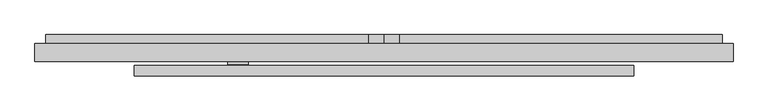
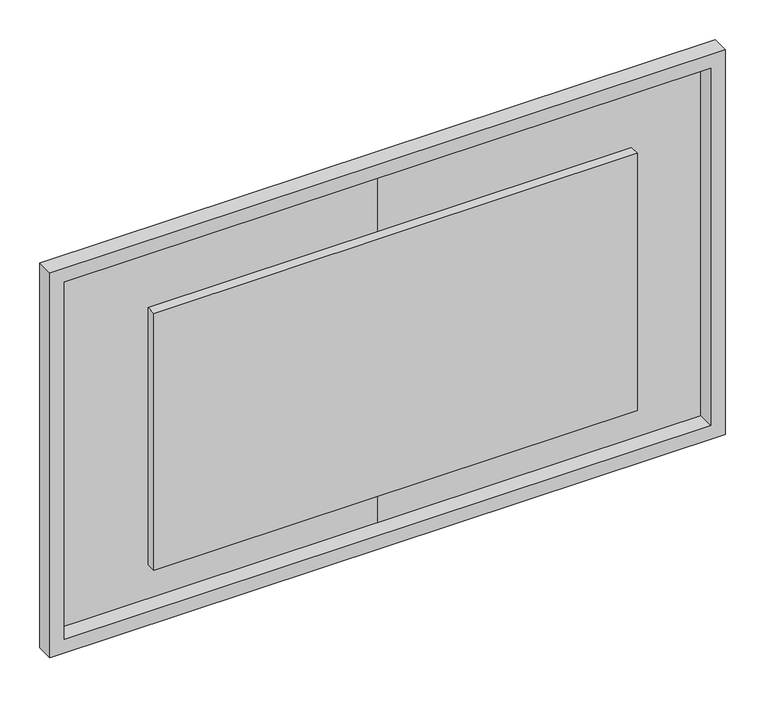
"""IFC4 building model written with IfcOpenShell, lengths in millimetres: plate geometry, Panel-Module-Teknion-Altos-TV_Shroud_With_Ceiling_and_Base : Side A TV Shroud, Side B Landscape Wall."""

from ifc_helpers import new_model, si_unit, point, frame, frame_2d, origin, place, context, project, spatial, polyline, circle_curve, trimmed, segment, composite_curve, outline, extrude, source, transform, mapped, element, save


def plate_c2148631(model_context):
    return source(origin(), model_context, "Body", "SweptSolid", [
        extrude(outline(polyline([(587.375, 5.3747645), (510.93116, 5.3747645), (510.93116, 24.9327645), (-510.93116, 24.9327645), (-510.93116, 5.3747645), (-587.375, 5.3747645), (-587.375, 8.0316045), (-513.588, 8.0316045), (-513.588, 27.5896045), (513.588, 27.5896045), (513.588, 8.0316045), (587.375, 8.0316045), (587.375, 5.3747645)])), frame((0.0, 0.0, 1194.181), z_axis=(0.0, 0.0, 1.0), x_axis=(1.0, 0.0, 0.0)), (0.0, 0.0, 1.0), 666.75),
        extrude(outline(polyline([(5.3747645, 1897.13616), (8.0316045, 1897.13616), (8.0316045, 1864.34984), (27.5896045, 1864.34984), (27.5896045, 1190.76216), (8.0316045, 1190.76216), (8.0316045, 1157.97584), (5.3747645, 1157.97584), (5.3747645, 1193.419), (24.9327645, 1193.419), (24.9327645, 1861.693), (5.3747645, 1861.693), (5.3747645, 1897.13616)])), frame((-510.16916, 0.0, 0.0), z_axis=(1.0, 0.0, 0.0), x_axis=(0.0, 1.0, 0.0)), (0.0, 0.0, 1.0), 1020.33832),
        extrude(outline(polyline([(2098.3702, 0.0), (2098.3702, -45.6140344), (2099.564, -45.6140344), (2099.564, -974.9746344), (955.5633805, -974.9746344), (955.5633805, -45.6140344), (956.7418, -45.6140344), (956.7418, 0.0), (1194.181, 0.0), (1194.181, -550.4390344), (1200.531, -550.4390344), (1200.531, -594.8890344), (1854.581, -594.8890344), (1854.581, -550.4390344), (1860.931, -550.4390344), (1860.931, 0.0), (2098.3702, 0.0)])), frame((0.0, 1.9076645, 0.0), z_axis=(0.0, 1.0, 0.0), x_axis=(0.0, 0.0, 1.0)), (0.0, 0.0, 1.0), 25.68194),
        extrude(outline(polyline([(2098.3702, 0.0), (1860.931, 0.0), (1860.931, 550.4390344), (1854.581, 550.4390344), (1854.581, 594.8890344), (1200.531, 594.8890344), (1200.531, 550.4390344), (1194.181, 550.4390344), (1194.181, 0.0), (956.7418, 0.0), (956.7418, 45.6140344), (955.548, 45.6140344), (955.548, 974.9746344), (2099.564, 974.9746344), (2099.564, 45.6140344), (2098.3702, 45.6140344), (2098.3702, 0.0)])), frame((0.0, 1.9076645, 0.0), z_axis=(0.0, 1.0, 0.0), x_axis=(0.0, 0.0, 1.0)), (0.0, 0.0, 1.0), 25.68194),
        extrude(outline(polyline([(-28.9703956, 1118.87), (-28.9703956, 1228.409235), (27.5896045, 1228.409235), (27.5896045, 1195.1335), (1.9076645, 1195.1335), (1.9076645, 1118.87), (-28.9703956, 1118.87)])), frame((387.10616, 0.0, 0.0), z_axis=(1.0, 0.0, 0.0), x_axis=(0.0, 1.0, 0.0)), (0.0, 0.0, 1.0), 114.3),
        extrude(outline(polyline([(-510.93116, 5.3747645), (-409.33116, 5.3747645), (-409.33116, -32.7178517), (-510.93116, -32.7178517), (-510.93116, 5.3747645)])), frame((0.0, 0.0, 1275.969), z_axis=(0.0, 0.0, 1.0), x_axis=(1.0, 0.0, 0.0)), (0.0, 0.0, 1.0), 292.1),
        extrude(outline(polyline([(-390.5800001, -57.6172355), (-450.58, -57.6172355), (-450.58, -44.9172355), (-390.5800001, -44.9172355), (-390.5800001, -57.6172355)])), frame((0.0, 0.0, 1277.3984), z_axis=(0.0, 0.0, 1.0), x_axis=(1.0, 0.0, 0.0)), (0.0, 0.0, 1.0), 59.6534781),
        extrude(outline(polyline([(917.575, 1005.8356344), (2130.425, 1005.8356344), (2130.425, -1005.8356344), (917.575, -1005.8356344), (917.575, 1005.8356344)]), holes=[polyline([(960.882, -962.5286344), (2087.118, -962.5286344), (2087.118, 962.5286344), (960.882, 962.5286344), (960.882, -962.5286344)])]), frame((0.0, -50.0073955, 0.0), z_axis=(0.0, 1.0, 0.0), x_axis=(0.0, 0.0, 1.0)), (0.0, 0.0, 1.0), 51.91506),
        extrude(outline(composite_curve([segment(polyline([(381.0, 24.9327645), (382.8786696, 23.0540949), (369.2487336, 9.424159)]), True, "CONTINUOUS"), segment(trimmed(circle_curve(frame_2d((361.95, 16.7228926)), 10.3219681), [point((369.2487336, 9.424159))], [point((361.95, 6.4009245))], False, "CARTESIAN"), True, "CONTINUOUS"), segment(polyline([(361.95, 6.4009245), (-361.95, 6.4009245)]), True, "CONTINUOUS"), segment(trimmed(circle_curve(frame_2d((-361.95, 16.7228926)), 10.3219681), [point((-361.95, 6.4009245))], [point((-369.2487336, 9.424159))], False, "CARTESIAN"), True, "CONTINUOUS"), segment(polyline([(-369.2487336, 9.424159), (-382.8786696, 23.0540949), (-381.0, 24.9327645), (-367.370064, 11.3028285)]), True, "CONTINUOUS"), segment(trimmed(circle_curve(frame_2d((-361.95, 16.7228926)), 7.6651281), [point((-367.370064, 11.3028285))], [point((-361.95, 9.0577645))], True, "CARTESIAN"), True, "CONTINUOUS"), segment(polyline([(-361.95, 9.0577645), (361.95, 9.0577645)]), True, "CONTINUOUS"), segment(trimmed(circle_curve(frame_2d((361.95, 16.7228926)), 7.6651281), [point((361.95, 9.0577645))], [point((367.370064, 11.3028285))], True, "CARTESIAN"), True, "CONTINUOUS"), segment(polyline([(367.370064, 11.3028285), (381.0, 24.9327645)]), True, "CONTINUOUS")], self_intersect=False)), frame((0.0, 0.0, 1406.906), z_axis=(0.0, 0.0, 1.0), x_axis=(1.0, 0.0, 0.0)), (0.0, 0.0, 1.0), 241.3),
        extrude(outline(polyline([(-720.09, -61.8172355), (720.09, -61.8172355), (720.09, -91.2172355), (-720.09, -91.2172355), (-720.09, -61.8172355)])), frame((0.0, 0.0, 1118.87), z_axis=(0.0, 0.0, 1.0), x_axis=(1.0, 0.0, 0.0)), (0.0, 0.0, 1.0), 810.26),
    ])


if __name__ == "__main__":
    model = new_model("IFC4")
    model_context = context("Model", 3, world=origin())
    ifc_project = project(units=[si_unit("LENGTHUNIT", "METRE", prefix="MILLI")], contexts=[model_context])
    site = spatial("IfcSite", under=ifc_project)
    building = spatial("IfcBuilding", under=site)
    placement = place(None, origin())
    plate_shape = plate_c2148631(model_context)
    element("IfcPlate", 1, ObjectType="Panel-Module-Teknion-Altos-TV_Shroud_With_Ceiling_and_Base : Side A TV Shroud, Side B Landscape Wall", at=placement, inside=building, context=model_context, shape_type="MappedRepresentation", body=[
        mapped(plate_shape, transform((0.0, 0.0, 0.0), x_axis=(1.0, 0.0, 0.0), y_axis=(0.0, 1.0, 0.0), z_axis=(0.0, 0.0, 1.0))),
    ])
    save(model, "model.ifc")
